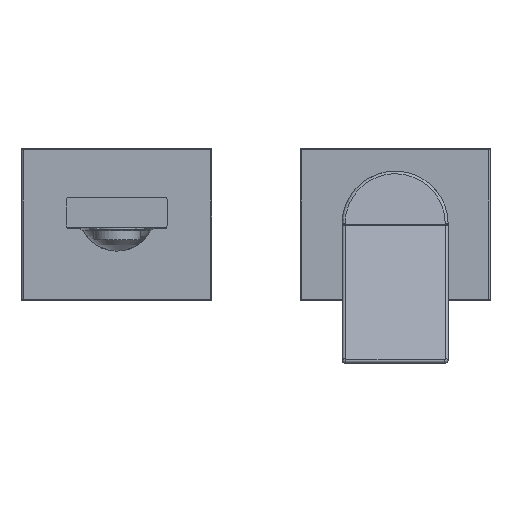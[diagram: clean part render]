
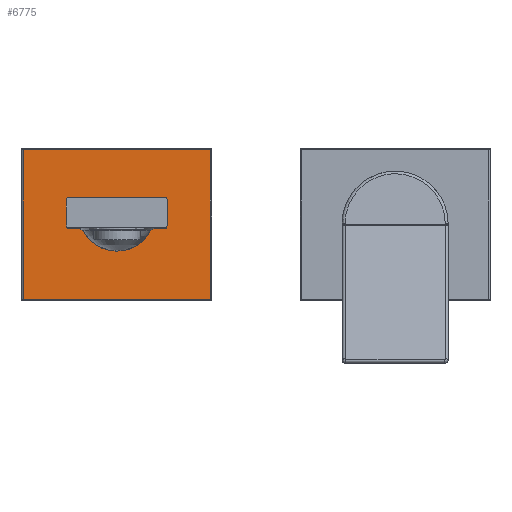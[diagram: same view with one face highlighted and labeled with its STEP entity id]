
A CAD part, top view. The second image highlights one B-rep face of the part: STEP entity #6775.
In plain terms, the highlighted planar face has unit normal (0, 0, 1).
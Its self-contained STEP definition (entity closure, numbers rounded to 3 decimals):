
#3820=DIRECTION('',(-1.,0.,0.));
#3821=VECTOR('',#3820,74.);
#3822=CARTESIAN_POINT('',(-75.,29.5,45.7));
#3823=LINE('',#3822,#3821);
#3824=DIRECTION('',(0.,1.,0.));
#3825=VECTOR('',#3824,59.);
#3826=CARTESIAN_POINT('',(-75.,-29.5,45.7));
#3827=LINE('',#3826,#3825);
#3828=DIRECTION('',(1.,0.,0.));
#3829=VECTOR('',#3828,74.);
#3830=CARTESIAN_POINT('',(-149.,-29.5,45.7));
#3831=LINE('',#3830,#3829);
#3832=DIRECTION('',(0.,-1.,0.));
#3833=VECTOR('',#3832,59.);
#3834=CARTESIAN_POINT('',(-149.,29.5,45.7));
#3835=LINE('',#3834,#3833);
#3836=DIRECTION('',(0.,-1.,0.));
#3837=VECTOR('',#3836,9.);
#3838=CARTESIAN_POINT('',(-92.,9.,45.7));
#3839=LINE('',#3838,#3837);
#3840=CARTESIAN_POINT('',(-112.,4.5,45.7));
#3841=DIRECTION('',(0.,0.,-1.));
#3842=DIRECTION('',(0.956,0.293,0.));
#3843=AXIS2_PLACEMENT_3D('',#3840,#3841,#3842);
#3845=DIRECTION('',(1.,0.,0.));
#3846=VECTOR('',#3845,39.205);
#3847=CARTESIAN_POINT('',(-131.602,10.5,45.7));
#3848=LINE('',#3847,#3846);
#3849=CARTESIAN_POINT('',(-112.,4.5,45.7));
#3850=DIRECTION('',(0.,0.,-1.));
#3851=DIRECTION('',(-0.976,0.22,0.));
#3852=AXIS2_PLACEMENT_3D('',#3849,#3850,#3851);
#3854=DIRECTION('',(0.,1.,0.));
#3855=VECTOR('',#3854,9.);
#3856=CARTESIAN_POINT('',(-132.,0.,45.7));
#3857=LINE('',#3856,#3855);
#3858=CARTESIAN_POINT('',(-112.,4.5,45.7));
#3859=DIRECTION('',(0.,0.,-1.));
#3860=DIRECTION('',(-0.956,-0.293,0.));
#3861=AXIS2_PLACEMENT_3D('',#3858,#3859,#3860);
#3863=DIRECTION('',(-1.,0.,0.));
#3864=VECTOR('',#3863,4.922);
#3865=CARTESIAN_POINT('',(-126.68,-1.5,45.7));
#3866=LINE('',#3865,#3864);
#3867=DIRECTION('',(-0.819,0.574,0.));
#3868=VECTOR('',#3867,1.715);
#3869=CARTESIAN_POINT('',(-125.275,-2.484,45.7));
#3870=LINE('',#3869,#3868);
#3871=CARTESIAN_POINT('',(-125.275,-2.484,45.7));
#3872=CARTESIAN_POINT('',(-124.432,-4.086,45.7));
#3873=CARTESIAN_POINT('',(-122.159,-6.982,45.7));
#3874=CARTESIAN_POINT('',(-117.432,-9.837,45.7));
#3875=CARTESIAN_POINT('',(-113.811,-10.5,45.7));
#3876=CARTESIAN_POINT('',(-112.,-10.5,45.7));
#3878=CARTESIAN_POINT('',(-112.,-10.5,45.7));
#3879=CARTESIAN_POINT('',(-110.189,-10.5,45.7));
#3880=CARTESIAN_POINT('',(-106.568,-9.837,45.7));
#3881=CARTESIAN_POINT('',(-101.841,-6.982,45.7));
#3882=CARTESIAN_POINT('',(-99.568,-4.086,45.7));
#3883=CARTESIAN_POINT('',(-98.725,-2.484,45.7));
#3885=DIRECTION('',(-0.819,-0.574,0.));
#3886=VECTOR('',#3885,1.715);
#3887=CARTESIAN_POINT('',(-97.32,-1.5,45.7));
#3888=LINE('',#3887,#3886);
#3889=DIRECTION('',(-1.,0.,0.));
#3890=VECTOR('',#3889,4.922);
#3891=CARTESIAN_POINT('',(-92.398,-1.5,45.7));
#3892=LINE('',#3891,#3890);
#3893=CARTESIAN_POINT('',(-112.,4.5,45.7));
#3894=DIRECTION('',(0.,0.,-1.));
#3895=DIRECTION('',(0.976,-0.22,0.));
#3896=AXIS2_PLACEMENT_3D('',#3893,#3894,#3895);
#4702=CARTESIAN_POINT('',(-75.,29.5,45.7));
#4703=CARTESIAN_POINT('',(-149.,29.5,45.7));
#4704=VERTEX_POINT('',#4702);
#4705=VERTEX_POINT('',#4703);
#4712=CARTESIAN_POINT('',(-149.,-29.5,45.7));
#4713=VERTEX_POINT('',#4712);
#4716=CARTESIAN_POINT('',(-75.,-29.5,45.7));
#4717=VERTEX_POINT('',#4716);
#4808=CARTESIAN_POINT('',(-92.,9.,45.7));
#4809=CARTESIAN_POINT('',(-92.,0.,45.7));
#4810=VERTEX_POINT('',#4808);
#4811=VERTEX_POINT('',#4809);
#4812=CARTESIAN_POINT('',(-92.398,-1.5,45.7));
#4813=CARTESIAN_POINT('',(-97.32,-1.5,45.7));
#4814=VERTEX_POINT('',#4812);
#4815=VERTEX_POINT('',#4813);
#4816=CARTESIAN_POINT('',(-126.68,-1.5,45.7));
#4817=CARTESIAN_POINT('',(-131.602,-1.5,45.7));
#4818=VERTEX_POINT('',#4816);
#4819=VERTEX_POINT('',#4817);
#4820=CARTESIAN_POINT('',(-132.,0.,45.7));
#4821=CARTESIAN_POINT('',(-132.,9.,45.7));
#4822=VERTEX_POINT('',#4820);
#4823=VERTEX_POINT('',#4821);
#4824=CARTESIAN_POINT('',(-131.602,10.5,45.7));
#4825=CARTESIAN_POINT('',(-92.398,10.5,45.7));
#4826=VERTEX_POINT('',#4824);
#4827=VERTEX_POINT('',#4825);
#4828=VERTEX_POINT('',#3878);
#4829=VERTEX_POINT('',#3883);
#4830=VERTEX_POINT('',#3871);
#6733=CARTESIAN_POINT('',(-112.,0.,45.7));
#6734=DIRECTION('',(0.,0.,1.));
#6735=DIRECTION('',(0.,-1.,0.));
#6736=AXIS2_PLACEMENT_3D('',#6733,#6734,#6735);
#6737=PLANE('',#6736);
#6739=ORIENTED_EDGE('',*,*,#6738,.F.);
#6741=ORIENTED_EDGE('',*,*,#6740,.F.);
#6743=ORIENTED_EDGE('',*,*,#6742,.F.);
#6745=ORIENTED_EDGE('',*,*,#6744,.F.);
#6746=EDGE_LOOP('',(#6739,#6741,#6743,#6745));
#6747=FACE_OUTER_BOUND('',#6746,.F.);
#6749=ORIENTED_EDGE('',*,*,#6748,.F.);
#6751=ORIENTED_EDGE('',*,*,#6750,.F.);
#6753=ORIENTED_EDGE('',*,*,#6752,.F.);
#6755=ORIENTED_EDGE('',*,*,#6754,.F.);
#6757=ORIENTED_EDGE('',*,*,#6756,.F.);
#6759=ORIENTED_EDGE('',*,*,#6758,.F.);
#6761=ORIENTED_EDGE('',*,*,#6760,.F.);
#6763=ORIENTED_EDGE('',*,*,#6762,.F.);
#6764=ORIENTED_EDGE('',*,*,#6717,.T.);
#6766=ORIENTED_EDGE('',*,*,#6765,.T.);
#6768=ORIENTED_EDGE('',*,*,#6767,.F.);
#6770=ORIENTED_EDGE('',*,*,#6769,.F.);
#6772=ORIENTED_EDGE('',*,*,#6771,.F.);
#6773=EDGE_LOOP('',(#6749,#6751,#6753,#6755,#6757,#6759,#6761,#6763,#6764,#6766,
#6768,#6770,#6772));
#6774=FACE_BOUND('',#6773,.F.);
#6775=ADVANCED_FACE('',(#6747,#6774),#6737,.T.);
#3844=CIRCLE('',#3843,20.5);
#3853=CIRCLE('',#3852,20.5);
#3862=CIRCLE('',#3861,20.5);
#3877=B_SPLINE_CURVE_WITH_KNOTS('',3,(#3871,#3872,#3873,#3874,#3875,#3876),
.UNSPECIFIED.,.F.,.F.,(4,1,1,4),(0.,0.333,0.667,1.),
.UNSPECIFIED.);
#3884=B_SPLINE_CURVE_WITH_KNOTS('',3,(#3878,#3879,#3880,#3881,#3882,#3883),
.UNSPECIFIED.,.F.,.F.,(4,1,1,4),(0.,0.333,0.667,1.),
.UNSPECIFIED.);
#3897=CIRCLE('',#3896,20.5);
#6717=EDGE_CURVE('',#4830,#4828,#3877,.T.);
#6738=EDGE_CURVE('',#4704,#4705,#3823,.T.);
#6740=EDGE_CURVE('',#4717,#4704,#3827,.T.);
#6742=EDGE_CURVE('',#4713,#4717,#3831,.T.);
#6744=EDGE_CURVE('',#4705,#4713,#3835,.T.);
#6748=EDGE_CURVE('',#4810,#4811,#3839,.T.);
#6750=EDGE_CURVE('',#4827,#4810,#3844,.T.);
#6752=EDGE_CURVE('',#4826,#4827,#3848,.T.);
#6754=EDGE_CURVE('',#4823,#4826,#3853,.T.);
#6756=EDGE_CURVE('',#4822,#4823,#3857,.T.);
#6758=EDGE_CURVE('',#4819,#4822,#3862,.T.);
#6760=EDGE_CURVE('',#4818,#4819,#3866,.T.);
#6762=EDGE_CURVE('',#4830,#4818,#3870,.T.);
#6765=EDGE_CURVE('',#4828,#4829,#3884,.T.);
#6767=EDGE_CURVE('',#4815,#4829,#3888,.T.);
#6769=EDGE_CURVE('',#4814,#4815,#3892,.T.);
#6771=EDGE_CURVE('',#4811,#4814,#3897,.T.);
